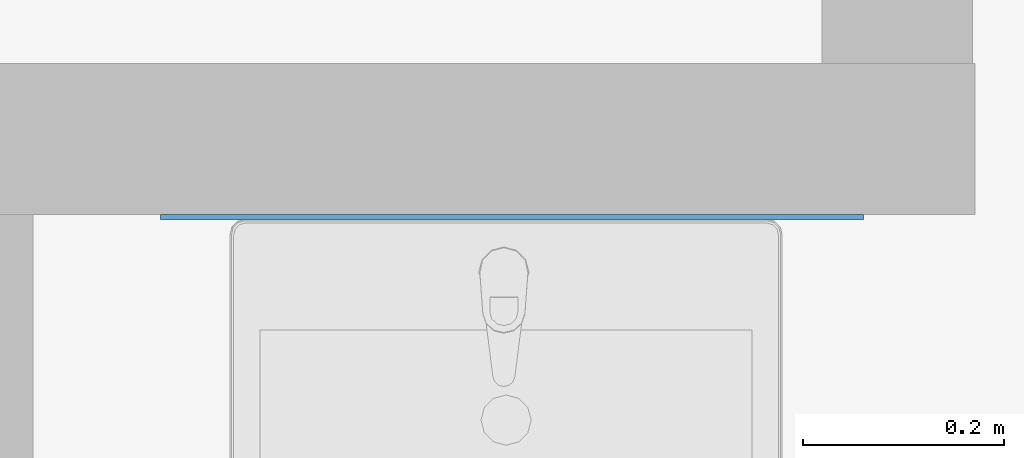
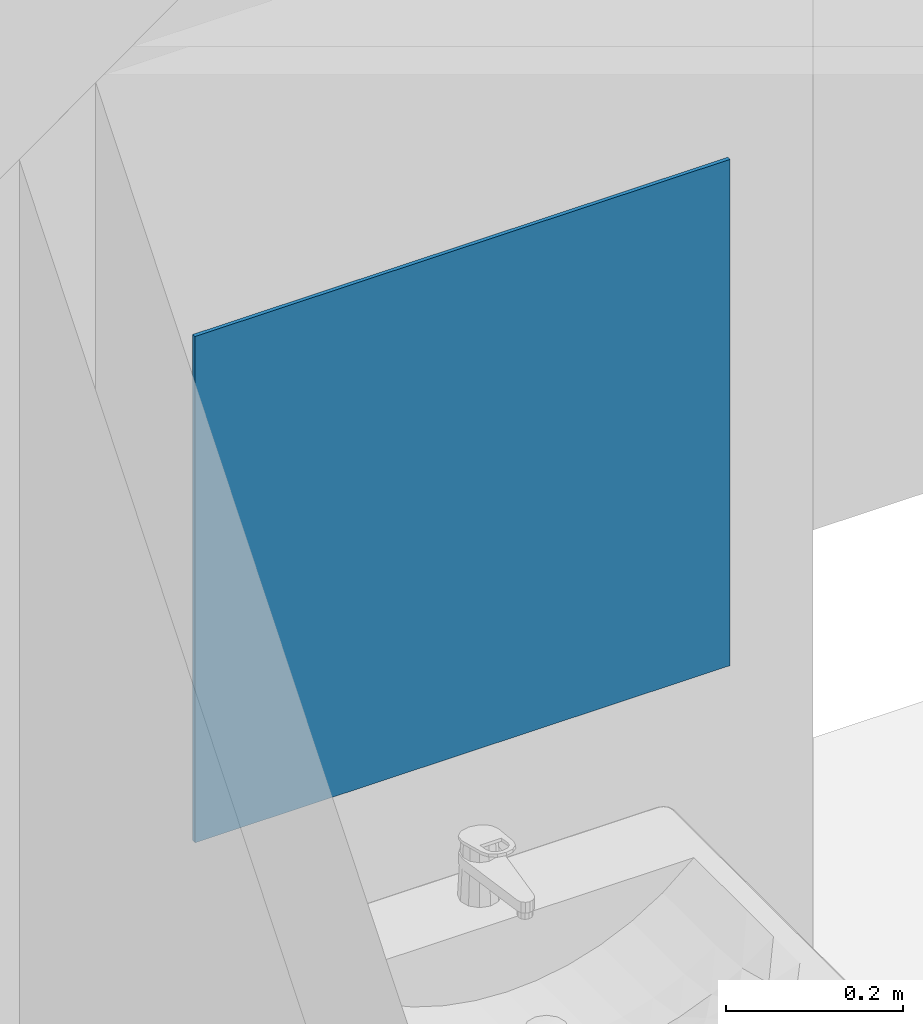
# One storey, part 33 of 127: 1 discrete accessory.
"""IFC2X3 building model written with IfcOpenShell, lengths in millimetres."""

from ifc_helpers import new_model, entity, si_unit, converted_unit, derived_unit, money_unit, direction, frame, origin_with_axes, place, context, subcontext, project, spatial, polyline, outline, extrude, material, type_object, element, save


model = new_model("IFC2X3")

# Units and contexts
model_context = context("Model", 3, precision=1e-05, world=origin_with_axes(), true_north=direction((0.0, 1.0)))
body_context = subcontext(model_context, "Body", "Model", "MODEL_VIEW")
ifc_project = project(units=[si_unit("LENGTHUNIT", "METRE", prefix="MILLI"), si_unit("AREAUNIT", "SQUARE_METRE"), si_unit("VOLUMEUNIT", "CUBIC_METRE"), converted_unit("PLANEANGLEUNIT", "DEGREE", entity("IfcPlaneAngleMeasure", 0.0174532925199), si_unit("PLANEANGLEUNIT", "RADIAN"), dimensions=[0, 0, 0, 0, 0, 0, 0]), si_unit("SOLIDANGLEUNIT", "STERADIAN"), money_unit("EUR"), converted_unit("TIMEUNIT", "Year", entity("IfcTimeMeasure", 31556926.0), si_unit("TIMEUNIT", "SECOND"), dimensions=[0, 0, 1, 0, 0, 0, 0]), si_unit("MASSUNIT", "GRAM", prefix="KILO"), si_unit("THERMODYNAMICTEMPERATUREUNIT", "DEGREE_CELSIUS"), si_unit("LUMINOUSINTENSITYUNIT", "LUMEN"), si_unit("ENERGYUNIT", "JOULE", prefix="MEGA"), derived_unit("THERMALCONDUCTANCEUNIT", [(si_unit("POWERUNIT", "WATT"), 1), (si_unit("LENGTHUNIT", "METRE"), -1), (si_unit("THERMODYNAMICTEMPERATUREUNIT", "KELVIN"), -1)]), derived_unit("SPECIFICHEATCAPACITYUNIT", [(si_unit("ENERGYUNIT", "JOULE"), 1), (si_unit("MASSUNIT", "GRAM", prefix="KILO"), -1), (si_unit("THERMODYNAMICTEMPERATUREUNIT", "KELVIN"), -1)]), derived_unit("MASSDENSITYUNIT", [(si_unit("MASSUNIT", "GRAM", prefix="KILO"), 1), (si_unit("VOLUMEUNIT", "CUBIC_METRE"), -1)])], contexts=[model_context])

# Site, building, storey
site_placement = place(None, origin_with_axes())
site = spatial("IfcSite", under=ifc_project, at=site_placement, Name="Site", CompositionType="ELEMENT")
building_placement = place(site_placement, origin_with_axes())
building = spatial("IfcBuilding", under=site, at=building_placement, Name="Building", CompositionType="ELEMENT")
storey_placement = place(building_placement, origin_with_axes())
storey = spatial("IfcBuildingStorey", under=building, at=storey_placement, Name="1 KORRUS", CompositionType="ELEMENT", Elevation=0.0)

# Discrete accessory
ifc_material = material(Name="Peegel")
discrete_accessory_type = type_object("IfcDiscreteAccessoryType", Name="Peegel 5")
discrete_accessory_placement = place(storey_placement, frame((70926.1132799, 39274.0649209, 1200.0), z_axis=(0.0, 0.0, 1.0), x_axis=(-1.0, 0.0, 0.0)))
element("IfcDiscreteAccessory", 1, at=discrete_accessory_placement, inside=storey, type_object=discrete_accessory_type, material=ifc_material, Name="Peegel", context=body_context, shape_type="SweptSolid", body=[
    extrude(outline(polyline([(0.0, 0.0), (700.000000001, 0.0), (700.000000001, 5.00000000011), (0.0, 5.00000000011), (0.0, 0.0)])), origin_with_axes(), (0.0, 0.0, 1.0), 700.0),
])

save(model, "model.ifc")
